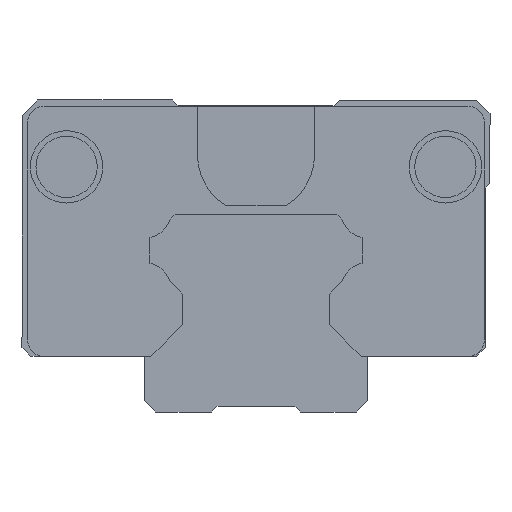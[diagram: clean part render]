
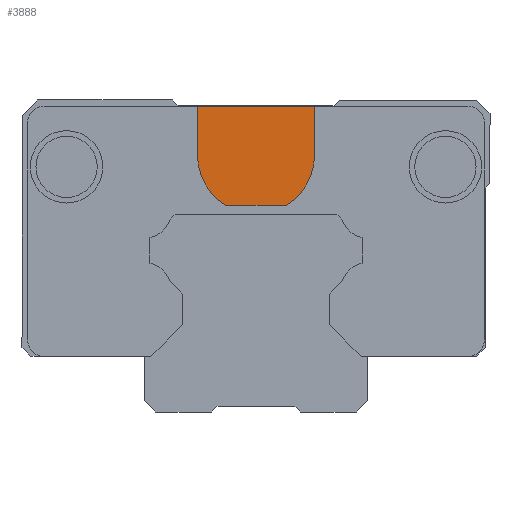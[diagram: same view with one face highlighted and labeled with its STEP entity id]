
A CAD part, left-side view. The second image highlights one B-rep face of the part: STEP entity #3888.
In plain terms, the highlighted planar face has unit normal (-1, 0, 0).
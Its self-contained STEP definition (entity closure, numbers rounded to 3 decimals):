
#3707=CARTESIAN_POINT('',(2.0,-5.25,23.05));
#3708=VERTEX_POINT('',#3707);
#3709=CARTESIAN_POINT('',(2.0,-5.25,27.45));
#3710=VERTEX_POINT('',#3709);
#3711=CARTESIAN_POINT('',(2.0,-5.25,23.05));
#3712=DIRECTION('',(0.0,0.0,1.0));
#3713=VECTOR('',#3712,4.4);
#3714=LINE('',#3711,#3713);
#3715=EDGE_CURVE('',#3708,#3710,#3714,.T.);
#3747=CARTESIAN_POINT('',(2.0,5.25,27.45));
#3748=VERTEX_POINT('',#3747);
#3749=CARTESIAN_POINT('',(2.0,5.25,23.05));
#3750=VERTEX_POINT('',#3749);
#3751=CARTESIAN_POINT('',(2.0,5.25,27.45));
#3752=DIRECTION('',(0.0,0.0,-1.0));
#3753=VECTOR('',#3752,4.4);
#3754=LINE('',#3751,#3753);
#3755=EDGE_CURVE('',#3748,#3750,#3754,.T.);
#3787=CARTESIAN_POINT('',(2.0,2.704,18.55));
#3788=VERTEX_POINT('',#3787);
#3789=CARTESIAN_POINT('',(2.0,0.,23.05));
#3790=DIRECTION('',(-1.0,0.0,0.0));
#3791=DIRECTION('',(0.0,0.515,-0.857));
#3792=AXIS2_PLACEMENT_3D('',#3789,#3790,#3791);
#3793=CIRCLE('',#3792,5.25);
#3794=EDGE_CURVE('',#3750,#3788,#3793,.T.);
#3820=CARTESIAN_POINT('',(2.0,-2.704,18.55));
#3821=VERTEX_POINT('',#3820);
#3822=CARTESIAN_POINT('',(2.0,2.704,18.55));
#3823=DIRECTION('',(0.0,-1.0,0.0));
#3824=VECTOR('',#3823,5.408);
#3825=LINE('',#3822,#3824);
#3826=EDGE_CURVE('',#3788,#3821,#3825,.T.);
#3851=CARTESIAN_POINT('',(2.0,0.,23.05));
#3852=DIRECTION('',(-1.0,0.0,0.0));
#3853=DIRECTION('',(0.0,-1.0,0.0));
#3854=AXIS2_PLACEMENT_3D('',#3851,#3852,#3853);
#3855=CIRCLE('',#3854,5.25);
#3856=EDGE_CURVE('',#3821,#3708,#3855,.T.);
#3870=CARTESIAN_POINT('',(2.0,0.,23.465));
#3871=DIRECTION('',(1.0,0.0,0.0));
#3872=DIRECTION('',(0.0,0.0,-1.0));
#3873=AXIS2_PLACEMENT_3D('',#3870,#3871,#3872);
#3874=PLANE('',#3873);
#3875=ORIENTED_EDGE('',*,*,#3715,.T.);
#3876=CARTESIAN_POINT('',(2.0,5.25,27.45));
#3877=DIRECTION('',(0.0,-1.0,0.0));
#3878=VECTOR('',#3877,10.5);
#3879=LINE('',#3876,#3878);
#3880=EDGE_CURVE('',#3748,#3710,#3879,.T.);
#3881=ORIENTED_EDGE('',*,*,#3880,.F.);
#3882=ORIENTED_EDGE('',*,*,#3755,.T.);
#3883=ORIENTED_EDGE('',*,*,#3794,.T.);
#3884=ORIENTED_EDGE('',*,*,#3826,.T.);
#3885=ORIENTED_EDGE('',*,*,#3856,.T.);
#3886=EDGE_LOOP('',(#3875,#3881,#3882,#3883,#3884,#3885));
#3887=FACE_OUTER_BOUND('',#3886,.T.);
#3888=ADVANCED_FACE('',(#3887),#3874,.F.);
